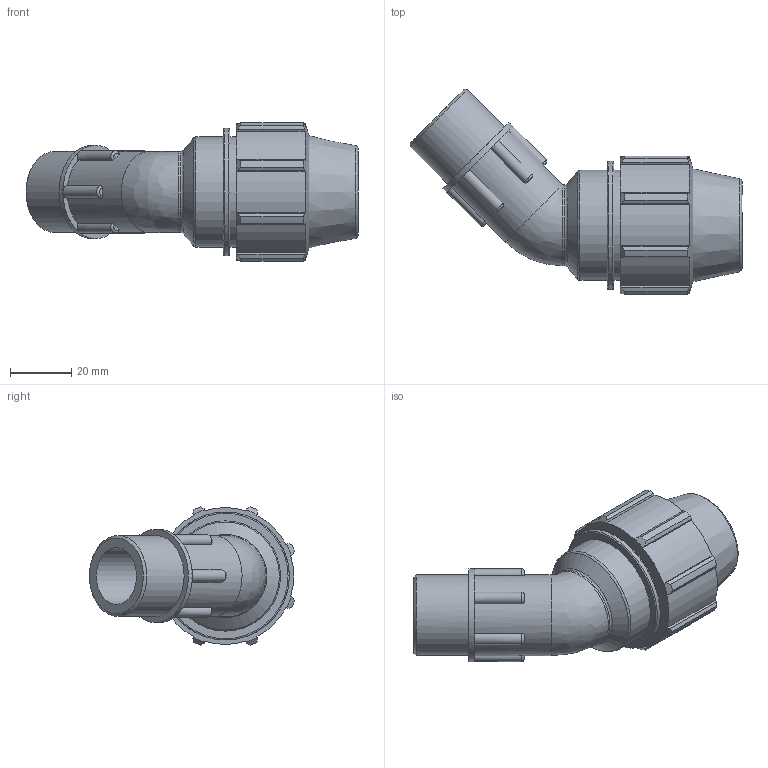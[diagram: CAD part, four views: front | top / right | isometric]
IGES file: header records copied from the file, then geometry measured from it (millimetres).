
Global section: file name: 074500020007_184500020007_0745060200070A.ipt; native system: Autodesk Inventor 2015; preprocessor: unknown; author: KIM; date: 20170606.172404; units: millimetre
Bounding box: 108.32 x 66.9 x 45.16 mm (x, y, z)
Volume: 68162.1 mm3; surface area: 22175 mm2
Topology: 1 solids, 1 shells, 111 faces, 309 edges, 204 vertices
Faces by surface type: plane 52, cylinder 29, revolution 17, cone 12, bspline 1
Full cylindrical faces by diameter (mm): 26.441 x3, 30.407 x1, 36 x2, 41.76 x1
